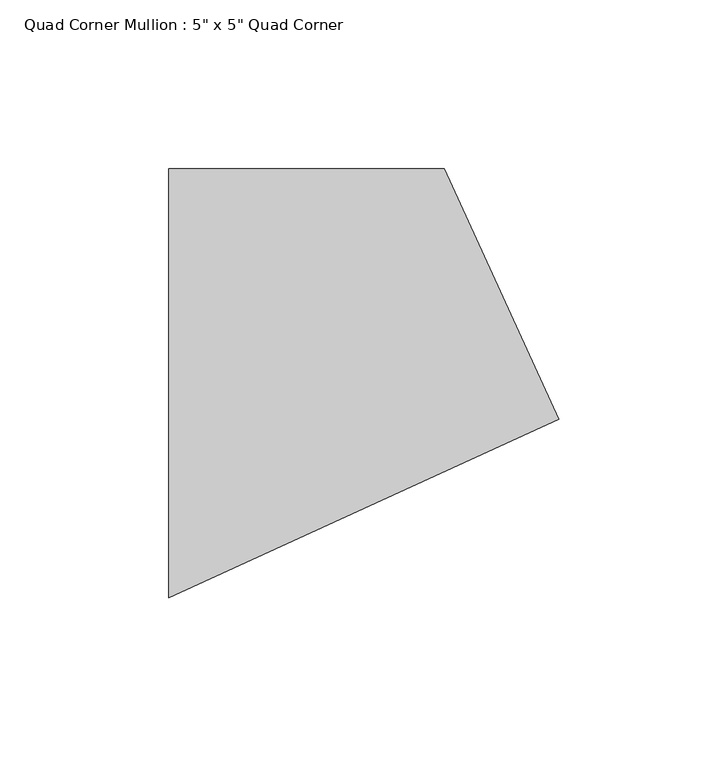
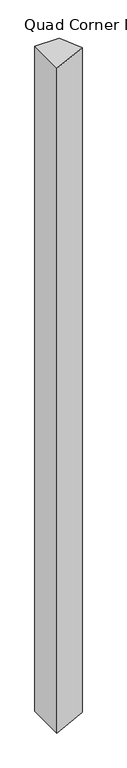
"""IFC4 building model written with IfcOpenShell, lengths in millimetres: member geometry."""

from ifc_helpers import new_model, si_unit, frame, origin, place, context, project, spatial, polyline, outline, extrude, source, transform, mapped, element, save


def member_eccb456b(model_context):
    return source(origin(), model_context, "Body", "SweptSolid", [
        extrude(outline(polyline([(74.7078921, -10.6493518), (-40.7728811, -63.5), (-40.7728811, 63.5), (40.7728811, 63.5), (74.7078921, -10.6493518)])), frame((0.0, 0.0, -2339.2506944), z_axis=(0.0, 0.0, 1.0), x_axis=(1.0, 0.0, 0.0)), (0.0, 0.0, 1.0), 2339.2506944),
    ])


if __name__ == "__main__":
    model = new_model("IFC4")
    model_context = context("Model", 3, world=origin())
    ifc_project = project(units=[si_unit("LENGTHUNIT", "METRE", prefix="MILLI")], contexts=[model_context])
    site = spatial("IfcSite", under=ifc_project)
    building = spatial("IfcBuilding", under=site)
    placement = place(None, origin())
    member_shape = member_eccb456b(model_context)
    element("IfcMember", 1, ObjectType="Quad Corner Mullion : 5\" x 5\" Quad Corner", at=placement, inside=building, context=model_context, shape_type="MappedRepresentation", body=[
        mapped(member_shape, transform((0.0, 0.0, 0.0), x_axis=(1.0, 0.0, 0.0), y_axis=(0.0, 1.0, 0.0), z_axis=(0.0, 0.0, 1.0))),
    ])
    save(model, "model.ifc")
